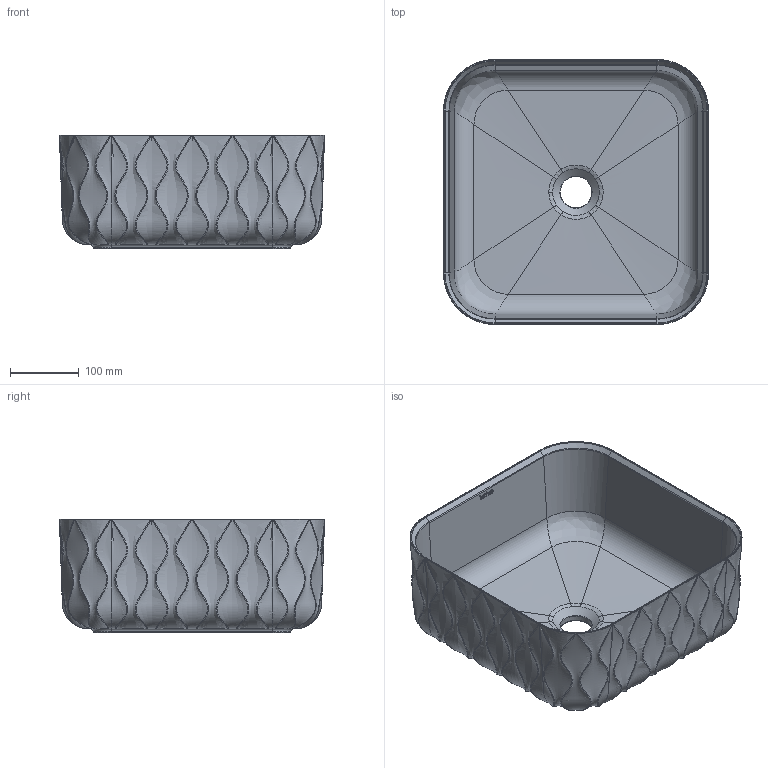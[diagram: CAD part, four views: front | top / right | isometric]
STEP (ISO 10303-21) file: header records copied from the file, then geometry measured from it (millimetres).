
FILE_DESCRIPTION(/* description */ (''),/* implementation_level */ '2;1');
FILE_NAME(/* name */ '4168_S~1',/* time_stamp */ '2023-11-13T11:09:24+01:00',/* author */ (''),/* organization */ (''),/* preprocessor_version */ 'ST-DEVELOPER v16.5',/* originating_system */ '',/* authorisation */ '');
FILE_SCHEMA (('CONFIG_CONTROL_DESIGN'));
Length unit declared in the file: millimetre
Products named in the file (1): Document
Bounding box: 384.96 x 384.96 x 165 mm (x, y, z)
Volume: 3336763.2 mm3; surface area: 650284.9 mm2
Topology: 7 solids, 7 shells, 317 faces, 761 edges, 424 vertices
Faces by surface type: bspline 212, plane 76, cylinder 29
Full cylindrical faces by diameter (mm): 46 x1
Entity records: 191922 total; most frequent: CARTESIAN_POINT 187222, ORIENTED_EDGE 1458, EDGE_CURVE 729, B_SPLINE_CURVE_WITH_KNOTS 544, VERTEX_POINT 424, EDGE_LOOP 323, ADVANCED_FACE 317, FACE_OUTER_BOUND 317
